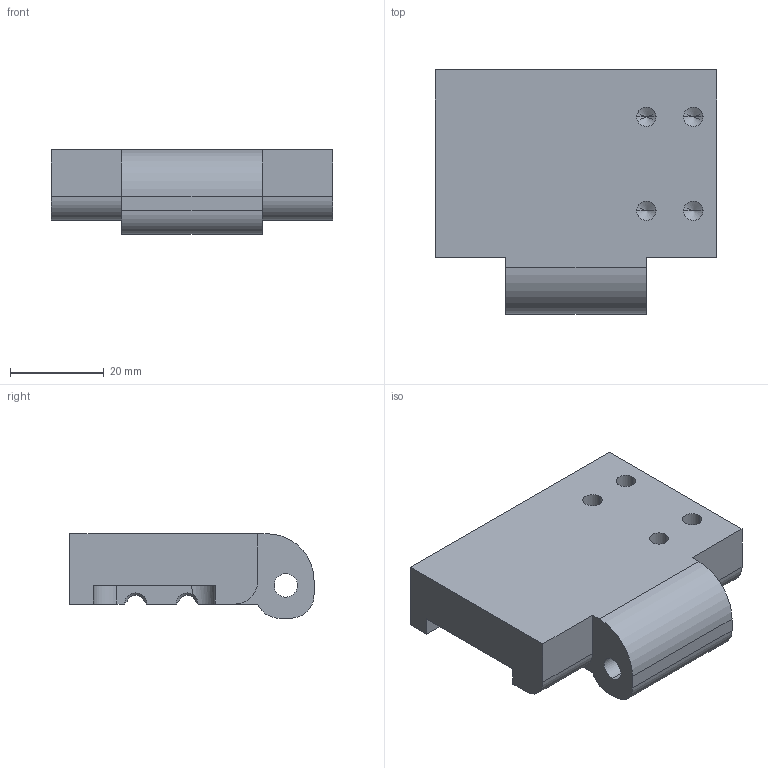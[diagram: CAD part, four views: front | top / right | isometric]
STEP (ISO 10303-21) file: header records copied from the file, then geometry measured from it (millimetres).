
FILE_DESCRIPTION (( 'STEP AP214' ), '1' );
FILE_NAME ('GZ46.07_V1上压块.STEP', '2021-06-25T04:24:55', ( '微软中国' ), ( 'Microsoft' ), 'SwSTEP 2.0', 'SolidWorks 2017', '' );
FILE_SCHEMA (( 'AUTOMOTIVE_DESIGN' ));
Length unit declared in the file: millimetre
Products named in the file (1): GZ46.07_V1奻揤輸
Bounding box: 60 x 52 x 18 mm (x, y, z)
Volume: 35678.5 mm3; surface area: 10429.8 mm2
Topology: 1 solids, 1 shells, 66 faces, 174 edges, 106 vertices
Faces by surface type: cylinder 25, plane 22, cone 18, bspline 1
Entity records: 2274 total; most frequent: CARTESIAN_POINT 533, DIRECTION 338, ORIENTED_EDGE 328, EDGE_CURVE 164, AXIS2_PLACEMENT_3D 124, VERTEX_POINT 106, VECTOR 90, LINE 90
